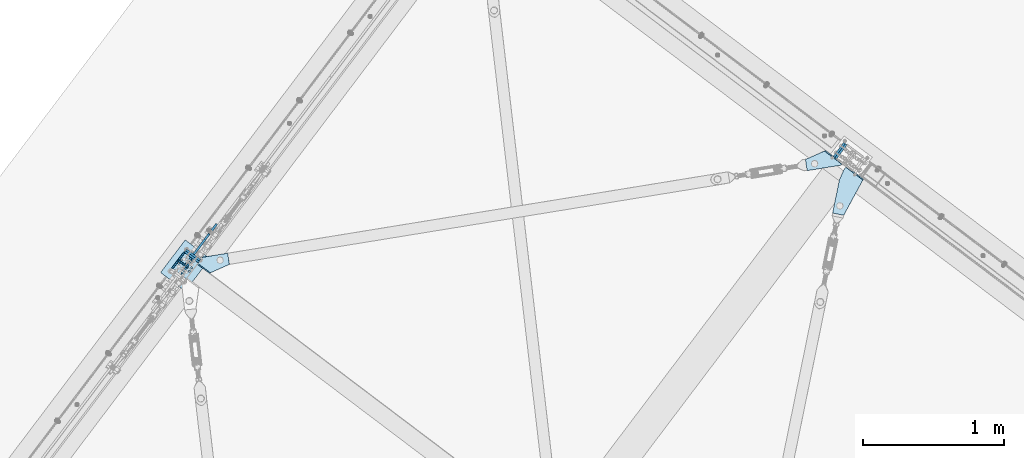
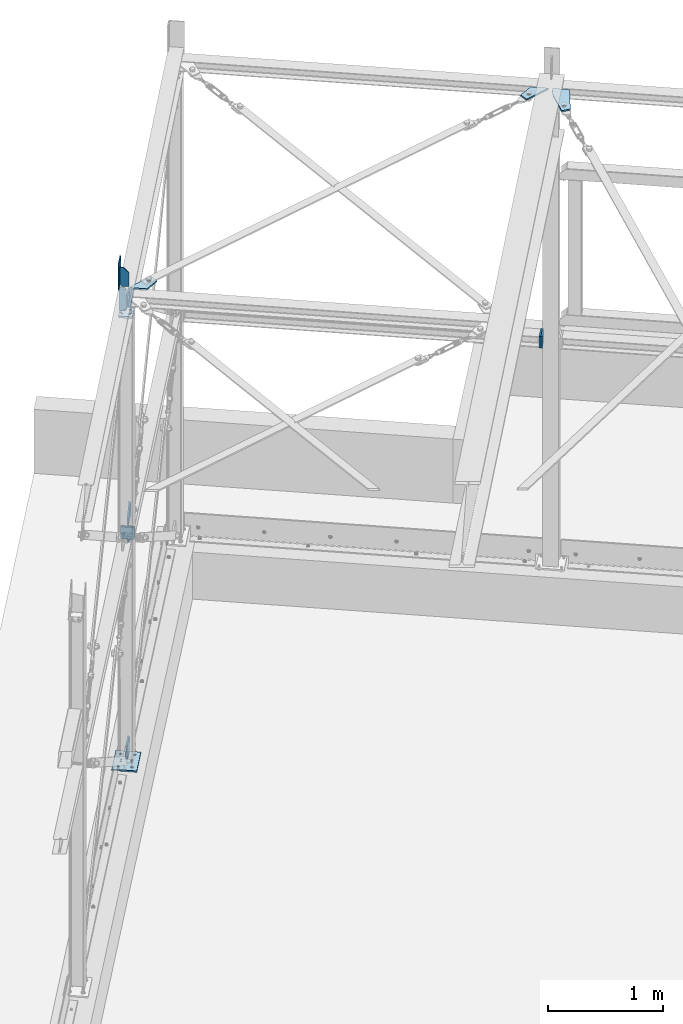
# One storey, part 70 of 476: 17 plates, 56 openings.
"""IFC2X3 building model written with IfcOpenShell, lengths in millimetres."""

from ifc_helpers import new_model, entity, si_unit, converted_unit, point, frame, frame_2d, origin, origin_with_axes, origin_2d_with_axis, place, context, project, spatial, polyline, circle_curve, line_curve, trimmed, segment, composite_curve, circle, outline, extrude, material, layer, layer_set, element, save


model = new_model("IFC2X3")

# Units and contexts
model_context = context("Model", 3, precision=1e-09, world=origin_with_axes())
ifc_project = project(units=[si_unit("LENGTHUNIT", "METRE", prefix="MILLI"), si_unit("AREAUNIT", "SQUARE_METRE"), si_unit("VOLUMEUNIT", "CUBIC_METRE"), converted_unit("PLANEANGLEUNIT", "DEGREE", entity("IfcPlaneAngleMeasure", 0.01745329), si_unit("PLANEANGLEUNIT", "RADIAN"), dimensions=[0, 0, 0, 0, 0, 0, 0])], contexts=[model_context])

# Site, building, storey
site_placement = place(None, origin_with_axes())
site = spatial("IfcSite", under=ifc_project, at=site_placement, Name="mKR Teilneubau & Sanierung BA1 - Ostfildern", CompositionType="ELEMENT")
building_placement = place(site_placement, origin_with_axes())
building = spatial("IfcBuilding", under=site, at=building_placement, Name="Struktur 1", CompositionType="ELEMENT")
storey_placement = place(building_placement, origin_with_axes())
storey = spatial("IfcBuildingStorey", under=building, at=storey_placement, Name="Default Storey", CompositionType="ELEMENT", Elevation=0.0)

# Plate, openings
ifc_material = material(Name="S235JR")
ifc_layer_1 = layer(ifc_material, 15.0)
ifc_layer_set_1 = layer_set([ifc_layer_1], Name="S235JR")
plate_1_placement = place(None, frame((11173.266846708, 8996.653100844, 5627.058653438), z_axis=(-0.018098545, -0.02396011, 0.999549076), x_axis=(-0.602462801, -0.797581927, -0.030027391)))
plate_1 = element("IfcPlate", 1, at=plate_1_placement, inside=storey, material=ifc_layer_set_1, Name="-", ObjectType="-", context=model_context, shape_type="SweptSolid", body=[
    extrude(outline(polyline([(0.0, 0.0), (70.398485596, 0.0), (323.938469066, 121.203483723), (289.437598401, 193.381665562), (1.572e-05, 149.999963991), (0.0, 0.0)])), origin_with_axes(), (0.0, 0.0, -1.0), 15.0),
])
opening_1_placement = place(plate_1_placement, frame((70.398485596, 0.0, 0.01), z_axis=(0.0, 0.0, 1.0), x_axis=(0.902210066, 0.431296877, 0.0)))
element("IfcOpeningElement", 2, at=opening_1_placement, cuts=plate_1, ObjectType="Opening", context=model_context, shape_type="SweptSolid", body=[
    extrude(outline(composite_curve([segment(trimmed(line_curve((0.0, 0.0), (1.0, 0.0), 39.67855855), [point((0.0, 0.0))], [point((39.67855855, 0.0))], True, "CARTESIAN"), True, "CONTINUOUS"), segment(trimmed(circle_curve(frame_2d((39.67855855, 175.0), x_axis=(-1.0, 0.0)), 175.0), [point((39.67855855, 0.0))], [point((-35.798394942, 17.113238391))], False, "CARTESIAN"), True, "CONTINUOUS"), segment(trimmed(line_curve((-35.798394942, 17.113238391), (0.902210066, -0.431296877), 39.67855855), [point((-35.798394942, 17.113238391))], [point((0.0, 0.0))], True, "CARTESIAN"), True, "CONTINUOUS")], self_intersect=False)), origin(), (0.0, 0.0, -1.0), 15.02),
])
opening_2_placement = place(plate_1_placement, frame((0.0, -0.000999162, 0.0), z_axis=(1.05e-07, 1.0, 0.0), x_axis=(1.0, -1.05e-07, 0.0)))
element("IfcOpeningElement", 3, at=opening_2_placement, cuts=plate_1, ObjectType="Opening", context=model_context, shape_type="SweptSolid", body=[
    extrude(outline(polyline([(0.0, 0.0), (8.0, 0.0), (0.0, 8.0), (0.0, 0.0)])), origin(), (0.0, 0.0, 1.0), 151.22102603),
])
opening_3_placement = place(plate_1_placement, frame((265.638541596, 137.669100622, -15.499620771), z_axis=(1.1849e-05, 5.664e-06, -1.0), x_axis=(-1.0, 0.0, -1.1849e-05)))
element("IfcOpeningElement", 4, at=opening_3_placement, cuts=plate_1, ObjectType="Opening", context=model_context, shape_type="SweptSolid", body=[
    extrude(circle(Radius=14.501, at=frame_2d((13.082948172, -6.254236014), x_axis=(1.0, 0.0))), origin(), (0.0, 0.0, -1.0), 16.000000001),
])

plate_2_placement = place(None, frame((6533.554969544, 8328.000868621, 5527.020530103), z_axis=(0.018098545, 0.02396011, -0.999549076), x_axis=(0.602462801, 0.797581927, 0.030027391)))
plate_2 = element("IfcPlate", 5, at=plate_2_placement, inside=storey, material=ifc_layer_set_1, Name="-", ObjectType="-", context=model_context, shape_type="SweptSolid", body=[
    extrude(outline(polyline([(0.0, 0.0), (16.761939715, 0.0), (192.636873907, 167.974256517), (137.382787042, 225.827096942), (1.572e-05, 149.999963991), (0.0, 0.0)])), origin_with_axes(), (0.0, 0.0, 1.0), 15.0),
])
opening_4_placement = place(plate_2_placement, frame((1.6183e-05, 154.416490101, 0.0), z_axis=(-1.05e-07, -1.0, 0.0), x_axis=(1.0, -1.05e-07, 0.0)))
element("IfcOpeningElement", 6, at=opening_4_placement, cuts=plate_2, ObjectType="Opening", context=model_context, shape_type="SweptSolid", body=[
    extrude(outline(polyline([(0.0, 0.0), (8.0, 0.0), (0.0, 8.0), (0.0, 0.0)])), origin(), (0.0, 0.0, 1.0), 154.437489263),
])
opening_5_placement = place(plate_2_placement, frame((132.106849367, 165.475673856, 15.499709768), z_axis=(7.613e-06, 7.271e-06, 1.0), x_axis=(1.0, 0.0, -7.613e-06)))
element("IfcOpeningElement", 7, at=opening_5_placement, cuts=plate_2, ObjectType="Opening", context=model_context, shape_type="SweptSolid", body=[
    extrude(circle(Radius=14.501, at=frame_2d((-10.486598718, -10.015500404), x_axis=(1.0, 0.0))), origin(), (0.0, 0.0, -1.0), 16.000000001),
])

plate_3_placement = place(None, frame((11144.537574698, 9018.348641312, 5627.058522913), z_axis=(0.018098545, 0.02396011, -0.999549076), x_axis=(-0.602462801, -0.797581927, -0.030027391)))
plate_3 = element("IfcPlate", 8, at=plate_3_placement, inside=storey, material=ifc_layer_set_1, Name="-", ObjectType="-", context=model_context, shape_type="SweptSolid", body=[
    extrude(outline(polyline([(0.0, 0.0), (16.761939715, 0.0), (192.636873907, 167.974256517), (137.382787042, 225.827096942), (1.572e-05, 149.999963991), (0.0, 0.0)])), origin_with_axes(), (0.0, 0.0, 1.0), 15.0),
])
opening_6_placement = place(plate_3_placement, frame((1.6183e-05, 154.416490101, 0.0), z_axis=(-1.05e-07, -1.0, 0.0), x_axis=(1.0, -1.05e-07, 0.0)))
element("IfcOpeningElement", 9, at=opening_6_placement, cuts=plate_3, ObjectType="Opening", context=model_context, shape_type="SweptSolid", body=[
    extrude(outline(polyline([(0.0, 0.0), (8.0, 0.0), (0.0, 8.0), (0.0, 0.0)])), origin(), (0.0, 0.0, 1.0), 154.437489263),
])
opening_7_placement = place(plate_3_placement, frame((132.106849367, 165.475673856, 15.499697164), z_axis=(7.613e-06, 7.271e-06, 1.0), x_axis=(1.0, 0.0, -7.613e-06)))
element("IfcOpeningElement", 10, at=opening_7_placement, cuts=plate_3, ObjectType="Opening", context=model_context, shape_type="SweptSolid", body=[
    extrude(circle(Radius=14.501, at=frame_2d((-10.486598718, -10.015500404), x_axis=(1.0, 0.0))), origin(), (0.0, 0.0, -1.0), 16.000000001),
])

# Plate
ifc_layer_2 = layer(ifc_material, 10.0)
ifc_layer_set_2 = layer_set([ifc_layer_2], Name="S235JR")
plate_4_placement = place(None, frame((6414.244428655, 8294.98113996, 5784.119214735), z_axis=(-0.797941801, 0.602734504, 0.0), x_axis=(0.602734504, 0.797941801, 0.0)))
element("IfcPlate", 11, at=plate_4_placement, inside=storey, material=ifc_layer_set_2, Name="-", ObjectType="-", context=model_context, shape_type="SweptSolid", body=[
    extrude(outline(polyline([(-30.0, -74.09833483), (110.0, -74.09833483), (110.0, 196.693894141), (-30.0, 200.90166517), (-30.0, -74.09833483)])), origin_with_axes(), (0.0, 0.0, 1.0), 10.0),
])

# Plate, openings
plate_5_placement = place(None, frame((6499.182020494, 8274.697962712, 5784.870902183), z_axis=(-0.602634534, -0.798017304, 0.0), x_axis=(-0.798017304, 0.602634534, 0.0)))
plate_5 = element("IfcPlate", 12, at=plate_5_placement, inside=storey, material=ifc_layer_set_2, Name="-", ObjectType="-", context=model_context, shape_type="SweptSolid", body=[
    extrude(outline(polyline([(0.0, 0.0), (80.0, 0.0), (80.0, 200.0), (0.0, 197.595559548), (0.0, 0.0)])), origin_with_axes(), (0.0, 0.0, -1.0), 10.0),
])
opening_8_placement = place(plate_5_placement, frame((0.0, 0.0, 0.01), z_axis=(0.0, 0.0, 1.0), x_axis=(1.0, 0.0, 0.0)))
element("IfcOpeningElement", 13, at=opening_8_placement, cuts=plate_5, ObjectType="Opening", context=model_context, shape_type="SweptSolid", body=[
    extrude(outline(polyline([(0.0, 0.0), (50.0, 0.0), (0.0, 50.0), (0.0, 0.0)])), origin(), (0.0, 0.0, -1.0), 10.02),
])
opening_9_placement = place(plate_5_placement, frame((80.0, 200.0, 0.01), z_axis=(0.0, 0.0, 1.0), x_axis=(-0.999548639, -0.03004194, 0.0)))
element("IfcOpeningElement", 14, at=opening_9_placement, cuts=plate_5, ObjectType="Opening", context=model_context, shape_type="SweptSolid", body=[
    extrude(outline(polyline([(0.0, 0.0), (20.0, 0.0), (0.600838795, 19.990972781), (0.0, 0.0)])), origin(), (0.0, 0.0, -1.0), 10.02),
])

plate_6_placement = place(None, frame((6480.583500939, 8288.734108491, 5327.055075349), z_axis=(0.602734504, 0.797941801, 0.0), x_axis=(-0.797941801, 0.602734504, 0.0)))
plate_6 = element("IfcPlate", 15, at=plate_6_placement, inside=storey, material=ifc_layer_set_2, Name="Stiffener#2", ObjectType="Stiffener#2", context=model_context, shape_type="SweptSolid", body=[
    extrude(outline(polyline([(0.0, 0.0), (65.0, 0.0), (65.0, 246.410800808), (0.0, 246.410800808), (0.0, 0.0)])), origin_with_axes(), (0.0, 0.0, 1.0), 10.0),
])
opening_10_placement = place(plate_6_placement, frame((0.0, 0.0, -0.01), z_axis=(0.0, 0.0, 1.0), x_axis=(1.0, 0.0, 0.0)))
element("IfcOpeningElement", 16, at=opening_10_placement, cuts=plate_6, ObjectType="Opening", context=model_context, shape_type="SweptSolid", body=[
    extrude(outline(composite_curve([segment(trimmed(line_curve((0.0, 246.410800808), (0.0, -1.0), 15.0), [point((0.0, 246.410800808))], [point((0.0, 231.410800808))], True, "CARTESIAN"), True, "CONTINUOUS"), segment(trimmed(circle_curve(frame_2d((15.0, 231.410800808), x_axis=(-1.0, 0.0)), 15.0), [point((0.0, 231.410800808))], [point((15.0, 246.410800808))], False, "CARTESIAN"), True, "CONTINUOUS"), segment(trimmed(line_curve((15.0, 246.410800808), (-1.0, 0.0), 15.0), [point((15.0, 246.410800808))], [point((0.0, 246.410800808))], True, "CARTESIAN"), True, "CONTINUOUS")], self_intersect=False)), origin(), (0.0, 0.0, 1.0), 10.02),
])
opening_11_placement = place(plate_6_placement, frame((0.0, 0.0, -0.01), z_axis=(0.0, 0.0, 1.0), x_axis=(1.0, 0.0, 0.0)))
element("IfcOpeningElement", 17, at=opening_11_placement, cuts=plate_6, ObjectType="Opening", context=model_context, shape_type="SweptSolid", body=[
    extrude(outline(composite_curve([segment(trimmed(line_curve((0.0, 0.0), (1.0, 0.0), 15.0), [point((0.0, 0.0))], [point((15.0, 0.0))], True, "CARTESIAN"), True, "CONTINUOUS"), segment(trimmed(circle_curve(frame_2d((15.0, 15.0), x_axis=(-1.0, 0.0)), 15.0), [point((15.0, 0.0))], [point((0.0, 15.0))], False, "CARTESIAN"), True, "CONTINUOUS"), segment(trimmed(line_curve((0.0, 15.0), (0.0, -1.0), 15.0), [point((0.0, 15.0))], [point((0.0, 0.0))], True, "CARTESIAN"), True, "CONTINUOUS")], self_intersect=False)), origin(), (0.0, 0.0, 1.0), 10.02),
])
opening_12_placement = place(plate_6_placement, frame((15.0, 13.499322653, -0.5), z_axis=(0.0, 0.0, 1.0), x_axis=(0.0, -1.0, 0.0)))
element("IfcOpeningElement", 18, at=opening_12_placement, cuts=plate_6, ObjectType="Opening", context=model_context, shape_type="SweptSolid", body=[
    extrude(circle(Radius=7.001, at=origin_2d_with_axis()), origin(), (0.0, 0.0, 1.0), 11.0),
])
opening_13_placement = place(plate_6_placement, frame((15.0, 233.212033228, -0.5), z_axis=(0.0, 0.0, 1.0), x_axis=(0.0, -1.0, 0.0)))
element("IfcOpeningElement", 19, at=opening_13_placement, cuts=plate_6, ObjectType="Opening", context=model_context, shape_type="SweptSolid", body=[
    extrude(circle(Radius=7.001, at=origin_2d_with_axis()), origin(), (0.0, 0.0, 1.0), 11.0),
])

# Plate, opening
plate_7_placement = place(None, frame((6537.727026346, 8377.159787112, 5318.205092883), z_axis=(0.797941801, -0.602734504, 0.0), x_axis=(0.0, 0.0, -1.0)))
plate_7 = element("IfcPlate", 20, at=plate_7_placement, inside=storey, material=ifc_layer_set_1, Name="-", ObjectType="-", context=model_context, shape_type="SweptSolid", body=[
    extrude(outline(polyline([(0.0, 0.0), (50.0, 0.0), (155.047503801, 223.033771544), (90.636516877, 270.480844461), (-8.129439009, 270.480844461), (0.0, 0.0)])), origin_with_axes(), (0.0, 0.0, 1.0), 15.0),
])
opening_14_placement = place(plate_7_placement, frame((87.256705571, 198.449067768, 15.499999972), z_axis=(0.0, 0.0, -1.0), x_axis=(-0.593088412, -0.80513734, 0.0)))
element("IfcOpeningElement", 21, at=opening_14_placement, cuts=plate_7, ObjectType="Opening", context=model_context, shape_type="SweptSolid", body=[
    extrude(circle(Radius=16.001, at=origin_2d_with_axis()), origin(), (0.0, 0.0, 1.0), 16.0),
])

plate_8_placement = place(None, frame((6549.696137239, 8368.118781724, 2969.000000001), z_axis=(-0.797941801, 0.602734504, 0.0), x_axis=(0.0, 0.0, 1.0)))
plate_8 = element("IfcPlate", 22, at=plate_8_placement, inside=storey, material=ifc_layer_set_1, Name="-", ObjectType="-", context=model_context, shape_type="SweptSolid", body=[
    extrude(outline(polyline([(0.0, 0.0), (70.072612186, 0.0), (170.757385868, 131.324718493), (107.269458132, 180.0), (1e-09, 180.0), (0.0, 0.0)])), origin_with_axes(), (0.0, 0.0, 1.0), 15.0),
])
opening_15_placement = place(plate_8_placement, frame((102.506960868, 108.046413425, -0.499999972), z_axis=(0.0, 0.0, 1.0), x_axis=(-0.608441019, -0.793599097, 0.0)))
element("IfcOpeningElement", 23, at=opening_15_placement, cuts=plate_8, ObjectType="Opening", context=model_context, shape_type="SweptSolid", body=[
    extrude(circle(Radius=16.001, at=origin_2d_with_axis()), origin(), (0.0, 0.0, 1.0), 16.0),
])

plate_9_placement = place(None, frame((6537.727010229, 8377.159799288, 2855.000000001), z_axis=(0.797941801, -0.602734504, 0.0), x_axis=(0.0, 0.0, -1.0)))
plate_9 = element("IfcPlate", 24, at=plate_9_placement, inside=storey, material=ifc_layer_set_1, Name="-", ObjectType="-", context=model_context, shape_type="SweptSolid", body=[
    extrude(outline(polyline([(0.0, 0.0), (60.204013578, 0.0), (152.720460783, 134.709788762), (86.775053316, 179.999999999), (1e-09, 180.0), (0.0, 0.0)])), origin_with_axes(), (0.0, 0.0, 1.0), 15.0),
])
opening_16_placement = place(plate_9_placement, frame((85.780098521, 107.895838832, 15.499999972), z_axis=(0.0, 0.0, -1.0), x_axis=(-0.566127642, -0.824317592, 0.0)))
element("IfcOpeningElement", 25, at=opening_16_placement, cuts=plate_9, ObjectType="Opening", context=model_context, shape_type="SweptSolid", body=[
    extrude(circle(Radius=16.001, at=origin_2d_with_axis()), origin(), (0.0, 0.0, 1.0), 16.0),
])

# Plate, openings
plate_10_placement = place(None, frame((6491.079604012, 8290.518143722, 544.999999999), z_axis=(-0.797941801, 0.602734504, 0.0), x_axis=(0.0, 0.0, 1.0)))
plate_10 = element("IfcPlate", 26, at=plate_10_placement, inside=storey, material=ifc_layer_set_1, Name="-", ObjectType="-", context=model_context, shape_type="SweptSolid", body=[
    extrude(outline(polyline([(0.0, 0.0), (155.808276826, 0.0), (155.808276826, 153.459788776), (89.862869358, 198.75), (0.0, 138.75), (0.0, 0.0)])), origin_with_axes(), (0.0, 0.0, 1.0), 15.0),
])
opening_17_placement = place(plate_10_placement, frame((88.867914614, 126.645838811, -0.499999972), z_axis=(0.0, 0.0, 1.0), x_axis=(-0.566127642, -0.824317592, 0.0)))
element("IfcOpeningElement", 27, at=opening_17_placement, cuts=plate_10, ObjectType="Opening", context=model_context, shape_type="SweptSolid", body=[
    extrude(circle(Radius=16.001, at=origin_2d_with_axis()), origin(), (0.0, 0.0, 1.0), 16.0),
])
opening_18_placement = place(plate_10_placement, frame((0.0, 0.0, -0.01), z_axis=(0.0, 0.0, 1.0), x_axis=(1.0, 0.0, 0.0)))
element("IfcOpeningElement", 28, at=opening_18_placement, cuts=plate_10, ObjectType="Opening", context=model_context, shape_type="SweptSolid", body=[
    extrude(outline(polyline([(0.0, 0.0), (20.0, 0.0), (0.0, 20.0), (0.0, 0.0)])), origin(), (0.0, 0.0, 1.0), 15.02),
])

plate_11_placement = place(None, frame((6308.267419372, 8243.443546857, 545.0), z_axis=(0.0, 0.0, -1.0), x_axis=(0.602734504, 0.797941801, 0.0)))
plate_11 = element("IfcPlate", 29, at=plate_11_placement, inside=storey, material=ifc_layer_set_1, Name="Baseplate", ObjectType="Baseplate", context=model_context, shape_type="SweptSolid", body=[
    extrude(outline(polyline([(0.0, 0.0), (290.0, 0.0), (290.0, 220.0), (0.0, 220.0), (0.0, 0.0)])), origin_with_axes(), (0.0, 0.0, 1.0), 15.0),
])
opening_19_placement = place(plate_11_placement, frame((50.0, 170.0, 15.5), z_axis=(0.0, 0.0, -1.0), x_axis=(1.0, 0.0, 0.0)))
element("IfcOpeningElement", 30, at=opening_19_placement, cuts=plate_11, ObjectType="Opening", context=model_context, shape_type="SweptSolid", body=[
    extrude(circle(Radius=11.001, at=frame_2d((190.0, 120.0), x_axis=(1.0, 0.0))), origin(), (0.0, 0.0, 1.0), 16.0),
])
opening_20_placement = place(plate_11_placement, frame((50.0, 170.0, 15.5), z_axis=(0.0, 0.0, -1.0), x_axis=(1.0, 0.0, 0.0)))
element("IfcOpeningElement", 31, at=opening_20_placement, cuts=plate_11, ObjectType="Opening", context=model_context, shape_type="SweptSolid", body=[
    extrude(circle(Radius=11.001, at=frame_2d((0.0, 120.0), x_axis=(1.0, 0.0))), origin(), (0.0, 0.0, 1.0), 16.0),
])
opening_21_placement = place(plate_11_placement, frame((50.0, 170.0, 15.5), z_axis=(0.0, 0.0, -1.0), x_axis=(1.0, 0.0, 0.0)))
element("IfcOpeningElement", 32, at=opening_21_placement, cuts=plate_11, ObjectType="Opening", context=model_context, shape_type="SweptSolid", body=[
    extrude(circle(Radius=11.001, at=frame_2d((190.0, 0.0), x_axis=(1.0, 0.0))), origin(), (0.0, 0.0, 1.0), 16.0),
])
opening_22_placement = place(plate_11_placement, frame((50.0, 170.0, 15.5), z_axis=(0.0, 0.0, -1.0), x_axis=(1.0, 0.0, 0.0)))
element("IfcOpeningElement", 33, at=opening_22_placement, cuts=plate_11, ObjectType="Opening", context=model_context, shape_type="SweptSolid", body=[
    extrude(circle(Radius=11.001, at=origin_2d_with_axis()), origin(), (0.0, 0.0, 1.0), 16.0),
])
opening_23_placement = place(plate_11_placement, frame((159.75, 156.0, 15.5), z_axis=(0.0, 0.0, -1.0), x_axis=(0.0, 1.0, 0.0)))
element("IfcOpeningElement", 34, at=opening_23_placement, cuts=plate_11, ObjectType="Opening", context=model_context, shape_type="SweptSolid", body=[
    extrude(circle(Radius=6.001, at=origin_2d_with_axis()), origin(), (0.0, 0.0, 1.0), 16.0),
])
opening_24_placement = place(plate_11_placement, frame((159.75, 64.0, 15.5), z_axis=(0.0, 0.0, -1.0), x_axis=(0.0, 1.0, 0.0)))
element("IfcOpeningElement", 35, at=opening_24_placement, cuts=plate_11, ObjectType="Opening", context=model_context, shape_type="SweptSolid", body=[
    extrude(circle(Radius=6.001, at=origin_2d_with_axis()), origin(), (0.0, 0.0, 1.0), 16.0),
])
opening_25_placement = place(plate_11_placement, frame((130.25, 64.0, 15.5), z_axis=(0.0, 0.0, -1.0), x_axis=(0.0, 1.0, 0.0)))
element("IfcOpeningElement", 36, at=opening_25_placement, cuts=plate_11, ObjectType="Opening", context=model_context, shape_type="SweptSolid", body=[
    extrude(circle(Radius=6.001, at=origin_2d_with_axis()), origin(), (0.0, 0.0, 1.0), 16.0),
])
opening_26_placement = place(plate_11_placement, frame((130.25, 156.0, 15.5), z_axis=(0.0, 0.0, -1.0), x_axis=(0.0, 1.0, 0.0)))
element("IfcOpeningElement", 37, at=opening_26_placement, cuts=plate_11, ObjectType="Opening", context=model_context, shape_type="SweptSolid", body=[
    extrude(circle(Radius=6.001, at=origin_2d_with_axis()), origin(), (0.0, 0.0, 1.0), 16.0),
])

plate_12_placement = place(None, frame((6543.710970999, 8372.638492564, 2912.000000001), z_axis=(-0.602734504, -0.797941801, 0.0), x_axis=(0.0, 0.0, -1.0)))
plate_12 = element("IfcPlate", 38, at=plate_12_placement, inside=storey, material=ifc_layer_set_1, Name="Endplate#1", ObjectType="Endplate#1", context=model_context, shape_type="SweptSolid", body=[
    extrude(outline(polyline([(-62.0, -62.0), (62.0, -62.0), (62.0, 62.0), (-62.0, 62.0), (-62.0, -62.0)])), origin_with_axes(), (0.0, 0.0, 1.0), 15.0),
])
opening_27_placement = place(plate_12_placement, frame((-37.0, 14.5, 15.5), z_axis=(0.0, 0.0, -1.0), x_axis=(-1.0, 0.0, 0.0)))
element("IfcOpeningElement", 39, at=opening_27_placement, cuts=plate_12, ObjectType="Opening", context=model_context, shape_type="SweptSolid", body=[
    extrude(circle(Radius=6.001, at=origin_2d_with_axis()), origin(), (0.0, 0.0, 1.0), 16.0),
])
opening_28_placement = place(plate_12_placement, frame((37.0, 14.5, 15.5), z_axis=(0.0, 0.0, -1.0), x_axis=(-1.0, 0.0, 0.0)))
element("IfcOpeningElement", 40, at=opening_28_placement, cuts=plate_12, ObjectType="Opening", context=model_context, shape_type="SweptSolid", body=[
    extrude(circle(Radius=6.001, at=origin_2d_with_axis()), origin(), (0.0, 0.0, 1.0), 16.0),
])
opening_29_placement = place(plate_12_placement, frame((37.0, -14.5, 15.5), z_axis=(0.0, 0.0, -1.0), x_axis=(-1.0, 0.0, 0.0)))
element("IfcOpeningElement", 41, at=opening_29_placement, cuts=plate_12, ObjectType="Opening", context=model_context, shape_type="SweptSolid", body=[
    extrude(circle(Radius=6.001, at=origin_2d_with_axis()), origin(), (0.0, 0.0, 1.0), 16.0),
])
opening_30_placement = place(plate_12_placement, frame((-37.0, -14.5, 15.5), z_axis=(0.0, 0.0, -1.0), x_axis=(-1.0, 0.0, 0.0)))
element("IfcOpeningElement", 42, at=opening_30_placement, cuts=plate_12, ObjectType="Opening", context=model_context, shape_type="SweptSolid", body=[
    extrude(circle(Radius=6.001, at=origin_2d_with_axis()), origin(), (0.0, 0.0, 1.0), 16.0),
])
opening_31_placement = place(plate_12_placement, frame((0.0, -30.0, 15.5), z_axis=(0.0, 0.0, -1.0), x_axis=(0.0, -1.0, 0.0)))
element("IfcOpeningElement", 43, at=opening_31_placement, cuts=plate_12, ObjectType="Opening", context=model_context, shape_type="SweptSolid", body=[
    extrude(circle(Radius=7.001, at=origin_2d_with_axis()), origin(), (0.0, 0.0, 1.0), 16.0),
])
opening_32_placement = place(plate_12_placement, frame((0.0, 30.0, 15.5), z_axis=(0.0, 0.0, -1.0), x_axis=(-1.0, 0.0, 0.0)))
element("IfcOpeningElement", 44, at=opening_32_placement, cuts=plate_12, ObjectType="Opening", context=model_context, shape_type="SweptSolid", body=[
    extrude(circle(Radius=7.001, at=origin_2d_with_axis()), origin(), (0.0, 0.0, 1.0), 16.0),
])

plate_13_placement = place(None, frame((6525.628935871, 8348.700238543, 2912.000000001), z_axis=(0.602734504, 0.797941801, 0.0), x_axis=(0.797941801, -0.602734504, 0.0)))
plate_13 = element("IfcPlate", 45, at=plate_13_placement, inside=storey, material=ifc_layer_set_1, Name="T-plate", ObjectType="T-plate", context=model_context, shape_type="SweptSolid", body=[
    extrude(outline(polyline([(-62.0, -62.0), (62.0, -62.0), (62.0, 62.0), (-62.0, 62.0), (-62.0, -62.0)])), origin_with_axes(), (0.0, 0.0, 1.0), 15.0),
])
opening_33_placement = place(plate_13_placement, frame((30.0, 0.0, -0.5), z_axis=(0.0, 0.0, 1.0), x_axis=(0.0, -1.0, 0.0)))
element("IfcOpeningElement", 46, at=opening_33_placement, cuts=plate_13, ObjectType="Opening", context=model_context, shape_type="SweptSolid", body=[
    extrude(circle(Radius=7.001, at=origin_2d_with_axis()), origin(), (0.0, 0.0, 1.0), 16.0),
])
opening_34_placement = place(plate_13_placement, frame((-30.0, 0.0, -0.5), z_axis=(0.0, 0.0, 1.0), x_axis=(-1.0, 0.0, 0.0)))
element("IfcOpeningElement", 47, at=opening_34_placement, cuts=plate_13, ObjectType="Opening", context=model_context, shape_type="SweptSolid", body=[
    extrude(circle(Radius=7.001, at=origin_2d_with_axis()), origin(), (0.0, 0.0, 1.0), 16.0),
])

plate_14_placement = place(None, frame((11116.28512062, 9116.992856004, 2912.000000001), z_axis=(0.797941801, -0.602734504, 0.0), x_axis=(0.0, 0.0, -1.0)))
plate_14 = element("IfcPlate", 48, at=plate_14_placement, inside=storey, material=ifc_layer_set_1, Name="Endplate#1", ObjectType="Endplate#1", context=model_context, shape_type="SweptSolid", body=[
    extrude(outline(polyline([(-62.0, -62.0), (62.0, -62.0), (62.0, 62.0), (-62.0, 62.0), (-62.0, -62.0)])), origin_with_axes(), (0.0, 0.0, 1.0), 15.0),
])
opening_35_placement = place(plate_14_placement, frame((37.0, -14.5, 15.5), z_axis=(0.0, 0.0, -1.0), x_axis=(1.0, 0.0, 0.0)))
element("IfcOpeningElement", 49, at=opening_35_placement, cuts=plate_14, ObjectType="Opening", context=model_context, shape_type="SweptSolid", body=[
    extrude(circle(Radius=6.001, at=origin_2d_with_axis()), origin(), (0.0, 0.0, 1.0), 16.0),
])
opening_36_placement = place(plate_14_placement, frame((-37.0, -14.5, 15.5), z_axis=(0.0, 0.0, -1.0), x_axis=(1.0, 0.0, 0.0)))
element("IfcOpeningElement", 50, at=opening_36_placement, cuts=plate_14, ObjectType="Opening", context=model_context, shape_type="SweptSolid", body=[
    extrude(circle(Radius=6.001, at=origin_2d_with_axis()), origin(), (0.0, 0.0, 1.0), 16.0),
])
opening_37_placement = place(plate_14_placement, frame((-37.0, 14.5, 15.5), z_axis=(0.0, 0.0, -1.0), x_axis=(1.0, 0.0, 0.0)))
element("IfcOpeningElement", 51, at=opening_37_placement, cuts=plate_14, ObjectType="Opening", context=model_context, shape_type="SweptSolid", body=[
    extrude(circle(Radius=6.001, at=origin_2d_with_axis()), origin(), (0.0, 0.0, 1.0), 16.0),
])
opening_38_placement = place(plate_14_placement, frame((37.0, 14.5, 15.5), z_axis=(0.0, 0.0, -1.0), x_axis=(1.0, 0.0, 0.0)))
element("IfcOpeningElement", 52, at=opening_38_placement, cuts=plate_14, ObjectType="Opening", context=model_context, shape_type="SweptSolid", body=[
    extrude(circle(Radius=6.001, at=origin_2d_with_axis()), origin(), (0.0, 0.0, 1.0), 16.0),
])
opening_39_placement = place(plate_14_placement, frame((0.0, -30.0, 15.5), z_axis=(0.0, 0.0, -1.0), x_axis=(0.0, -1.0, 0.0)))
element("IfcOpeningElement", 53, at=opening_39_placement, cuts=plate_14, ObjectType="Opening", context=model_context, shape_type="SweptSolid", body=[
    extrude(circle(Radius=7.001, at=origin_2d_with_axis()), origin(), (0.0, 0.0, 1.0), 16.0),
])
opening_40_placement = place(plate_14_placement, frame((0.0, 30.0, 15.5), z_axis=(0.0, 0.0, -1.0), x_axis=(-1.0, 0.0, 0.0)))
element("IfcOpeningElement", 54, at=opening_40_placement, cuts=plate_14, ObjectType="Opening", context=model_context, shape_type="SweptSolid", body=[
    extrude(circle(Radius=7.001, at=origin_2d_with_axis()), origin(), (0.0, 0.0, 1.0), 16.0),
])

plate_15_placement = place(None, frame((11140.223559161, 9098.911065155, 2912.000000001), z_axis=(-0.797941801, 0.602734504, 0.0), x_axis=(0.602734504, 0.797941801, 0.0)))
plate_15 = element("IfcPlate", 55, at=plate_15_placement, inside=storey, material=ifc_layer_set_1, Name="T-plate", ObjectType="T-plate", context=model_context, shape_type="SweptSolid", body=[
    extrude(outline(polyline([(-62.0, -62.0), (62.0, -62.0), (62.0, 62.0), (-62.0, 62.0), (-62.0, -62.0)])), origin_with_axes(), (0.0, 0.0, 1.0), 15.0),
])
opening_41_placement = place(plate_15_placement, frame((-30.000306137, 0.0, -0.5), z_axis=(0.0, 0.0, 1.0), x_axis=(-1.0, 0.0, 0.0)))
element("IfcOpeningElement", 56, at=opening_41_placement, cuts=plate_15, ObjectType="Opening", context=model_context, shape_type="SweptSolid", body=[
    extrude(circle(Radius=7.001, at=origin_2d_with_axis()), origin(), (0.0, 0.0, 1.0), 16.0),
])
opening_42_placement = place(plate_15_placement, frame((29.999693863, 0.0, -0.5), z_axis=(0.0, 0.0, 1.0), x_axis=(0.0, -1.0, 0.0)))
element("IfcOpeningElement", 57, at=opening_42_placement, cuts=plate_15, ObjectType="Opening", context=model_context, shape_type="SweptSolid", body=[
    extrude(circle(Radius=7.001, at=origin_2d_with_axis()), origin(), (0.0, 0.0, 1.0), 16.0),
])

ifc_layer_3 = layer(ifc_material, 20.0)
ifc_layer_set_3 = layer_set([ifc_layer_3], Name="S235JR")
plate_16_placement = place(None, frame((6483.437520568, 8292.844312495, 5295.190480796), z_axis=(-0.018107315, -0.023971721, 0.999548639), x_axis=(0.797941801, -0.602734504, 0.0)))
plate_16 = element("IfcPlate", 58, at=plate_16_placement, inside=storey, material=ifc_layer_set_3, Name="Endplate", ObjectType="Endplate", context=model_context, shape_type="SweptSolid", body=[
    extrude(outline(polyline([(-61.5, -70.0), (61.5, -70.0), (61.5, 70.0), (-61.5, 70.0), (-61.5, -70.0)])), origin_with_axes(), (0.0, 0.0, 1.0), 20.0),
])
opening_43_placement = place(plate_16_placement, frame((46.0, 14.751241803, 20.5), z_axis=(0.0, 0.0, -1.0), x_axis=(-1.0, 0.0, 0.0)))
element("IfcOpeningElement", 59, at=opening_43_placement, cuts=plate_16, ObjectType="Opening", context=model_context, shape_type="SweptSolid", body=[
    extrude(circle(Radius=6.001, at=origin_2d_with_axis()), origin(), (0.0, 0.0, 1.0), 21.0),
])
opening_44_placement = place(plate_16_placement, frame((-46.0, 14.751241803, 20.5), z_axis=(0.0, 0.0, -1.0), x_axis=(-1.0, 0.0, 0.0)))
element("IfcOpeningElement", 60, at=opening_44_placement, cuts=plate_16, ObjectType="Opening", context=model_context, shape_type="SweptSolid", body=[
    extrude(circle(Radius=6.001, at=origin_2d_with_axis()), origin(), (0.0, 0.0, 1.0), 21.0),
])
opening_45_placement = place(plate_16_placement, frame((-46.0, -14.751241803, 20.5), z_axis=(0.0, 0.0, -1.0), x_axis=(-1.0, 0.0, 0.0)))
element("IfcOpeningElement", 61, at=opening_45_placement, cuts=plate_16, ObjectType="Opening", context=model_context, shape_type="SweptSolid", body=[
    extrude(circle(Radius=6.001, at=origin_2d_with_axis()), origin(), (0.0, 0.0, 1.0), 21.0),
])
opening_46_placement = place(plate_16_placement, frame((46.0, -14.751241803, 20.5), z_axis=(0.0, 0.0, -1.0), x_axis=(-1.0, 0.0, 0.0)))
element("IfcOpeningElement", 62, at=opening_46_placement, cuts=plate_16, ObjectType="Opening", context=model_context, shape_type="SweptSolid", body=[
    extrude(circle(Radius=6.001, at=origin_2d_with_axis()), origin(), (0.0, 0.0, 1.0), 21.0),
])
opening_47_placement = place(plate_16_placement, frame((-32.5, 25.499, -0.5), z_axis=(0.0, 0.0, -1.0), x_axis=(-1.0, 0.0, 0.0)))
element("IfcOpeningElement", 63, at=opening_47_placement, cuts=plate_16, ObjectType="Opening", context=model_context, shape_type="SweptSolid", body=[
    extrude(circle(Radius=7.001, at=frame_2d((0.0, 7.001), x_axis=(1.0, 0.0))), origin(), (0.0, 0.0, -1.0), 21.0),
])
opening_48_placement = place(plate_16_placement, frame((32.5, -25.499, -0.5), z_axis=(0.0, 0.0, -1.0), x_axis=(-1.0, 0.0, 0.0)))
element("IfcOpeningElement", 64, at=opening_48_placement, cuts=plate_16, ObjectType="Opening", context=model_context, shape_type="SweptSolid", body=[
    extrude(circle(Radius=7.001, at=frame_2d((0.0, -7.001), x_axis=(1.0, 0.0))), origin(), (0.0, 0.0, -1.0), 21.0),
])
opening_49_placement = place(plate_16_placement, frame((32.5, 25.499, -0.5), z_axis=(0.0, 0.0, -1.0), x_axis=(-1.0, 0.0, 0.0)))
element("IfcOpeningElement", 65, at=opening_49_placement, cuts=plate_16, ObjectType="Opening", context=model_context, shape_type="SweptSolid", body=[
    extrude(circle(Radius=7.001, at=frame_2d((0.0, 7.001), x_axis=(1.0, 0.0))), origin(), (0.0, 0.0, -1.0), 21.0),
])
opening_50_placement = place(plate_16_placement, frame((-32.5, -25.499, -0.5), z_axis=(0.0, 0.0, -1.0), x_axis=(-1.0, 0.0, 0.0)))
element("IfcOpeningElement", 66, at=opening_50_placement, cuts=plate_16, ObjectType="Opening", context=model_context, shape_type="SweptSolid", body=[
    extrude(circle(Radius=7.001, at=frame_2d((0.0, -7.001), x_axis=(1.0, 0.0))), origin(), (0.0, 0.0, -1.0), 21.0),
])

ifc_layer_4 = layer(ifc_material, 12.0)
ifc_layer_set_4 = layer_set([ifc_layer_4], Name="S235JR")
plate_17_placement = place(None, frame((6523.889446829, 8335.115432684, 5532.06802525), z_axis=(0.797941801, -0.602734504, 0.0), x_axis=(-0.602462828, -0.797582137, -0.03002126)))
plate_17 = element("IfcPlate", 67, at=plate_17_placement, inside=storey, material=ifc_layer_set_4, Name="Endplate", ObjectType="Endplate", context=model_context, shape_type="SweptSolid", body=[
    extrude(outline(polyline([(0.0, 0.0), (120.0, 0.0), (120.0, 124.0), (0.0, 124.0), (0.0, 0.0)])), origin_with_axes(), (0.0, 0.0, 1.0), 12.0),
])
opening_51_placement = place(plate_17_placement, frame((74.5, 99.0, -0.5), z_axis=(0.0, 0.0, 1.0), x_axis=(0.0, -1.0, 0.0)))
element("IfcOpeningElement", 68, at=opening_51_placement, cuts=plate_17, ObjectType="Opening", context=model_context, shape_type="SweptSolid", body=[
    extrude(circle(Radius=6.001, at=origin_2d_with_axis()), origin(), (0.0, 0.0, 1.0), 13.0),
])
opening_52_placement = place(plate_17_placement, frame((74.5, 25.0, -0.5), z_axis=(0.0, 0.0, 1.0), x_axis=(0.0, -1.0, 0.0)))
element("IfcOpeningElement", 69, at=opening_52_placement, cuts=plate_17, ObjectType="Opening", context=model_context, shape_type="SweptSolid", body=[
    extrude(circle(Radius=6.001, at=origin_2d_with_axis()), origin(), (0.0, 0.0, 1.0), 13.0),
])
opening_53_placement = place(plate_17_placement, frame((45.5, 25.0, -0.5), z_axis=(0.0, 0.0, 1.0), x_axis=(0.0, -1.0, 0.0)))
element("IfcOpeningElement", 70, at=opening_53_placement, cuts=plate_17, ObjectType="Opening", context=model_context, shape_type="SweptSolid", body=[
    extrude(circle(Radius=6.001, at=origin_2d_with_axis()), origin(), (0.0, 0.0, 1.0), 13.0),
])
opening_54_placement = place(plate_17_placement, frame((45.5, 99.0, -0.5), z_axis=(0.0, 0.0, 1.0), x_axis=(0.0, -1.0, 0.0)))
element("IfcOpeningElement", 71, at=opening_54_placement, cuts=plate_17, ObjectType="Opening", context=model_context, shape_type="SweptSolid", body=[
    extrude(circle(Radius=6.001, at=origin_2d_with_axis()), origin(), (0.0, 0.0, 1.0), 13.0),
])
opening_55_placement = place(plate_17_placement, frame((90.0, 62.0, -0.5), z_axis=(0.0, 0.0, 1.0), x_axis=(0.0, -1.0, 0.0)))
element("IfcOpeningElement", 72, at=opening_55_placement, cuts=plate_17, ObjectType="Opening", context=model_context, shape_type="SweptSolid", body=[
    extrude(circle(Radius=7.001, at=origin_2d_with_axis()), origin(), (0.0, 0.0, 1.0), 13.0),
])
opening_56_placement = place(plate_17_placement, frame((30.0, 62.0, -0.5), z_axis=(0.0, 0.0, 1.0), x_axis=(0.0, -1.0, 0.0)))
element("IfcOpeningElement", 73, at=opening_56_placement, cuts=plate_17, ObjectType="Opening", context=model_context, shape_type="SweptSolid", body=[
    extrude(circle(Radius=7.001, at=origin_2d_with_axis()), origin(), (0.0, 0.0, 1.0), 13.0),
])

save(model, "model.ifc")
